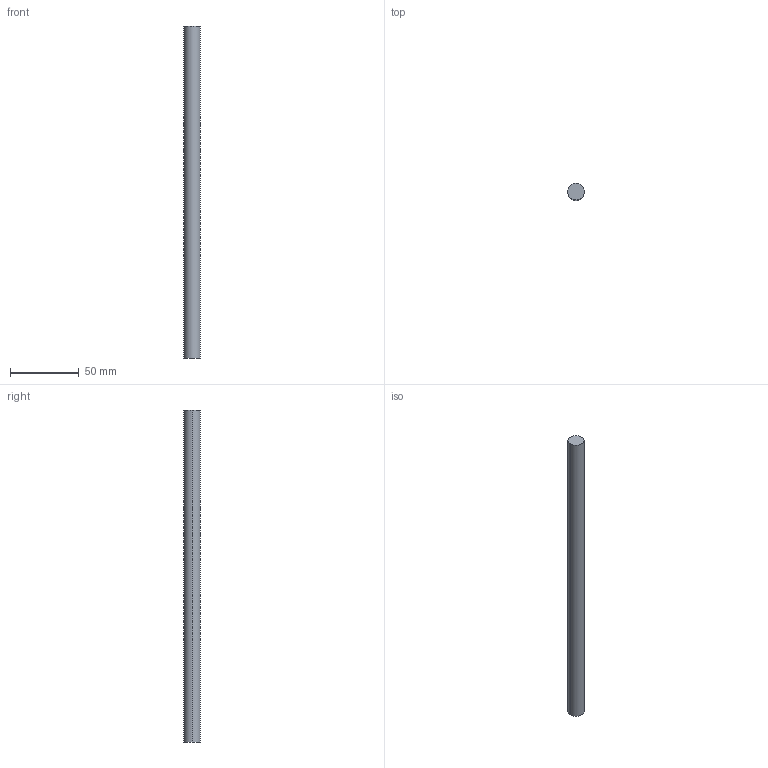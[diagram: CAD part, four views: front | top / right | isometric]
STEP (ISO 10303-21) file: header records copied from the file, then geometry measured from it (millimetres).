
FILE_DESCRIPTION (( 'STEP AP214' ), '1' );
FILE_NAME ('Magic Reling quer - S18_S19 - 350.step', '2010-09-07T14:56:10', ( 'grass' ), ( '' ), 'SwSTEP 2.0', 'SolidWorks 2010', '' );
FILE_SCHEMA (( 'AUTOMOTIVE_DESIGN' ));
Length unit declared in the file: millimetre
Products named in the file (1): Magic Reling quer - S18_S19 - 350
Bounding box: 12 x 12 x 241 mm (x, y, z)
Volume: 27256.5 mm3; surface area: 9311.7 mm2
Topology: 1 solids, 1 shells, 4 faces, 6 edges, 4 vertices
Faces by surface type: cylinder 2, plane 2
Entity records: 128 total; most frequent: DIRECTION 20, CARTESIAN_POINT 15, ORIENTED_EDGE 12, AXIS2_PLACEMENT_3D 9, EDGE_CURVE 6, VERTEX_POINT 4, EDGE_LOOP 4, FACE_OUTER_BOUND 4
